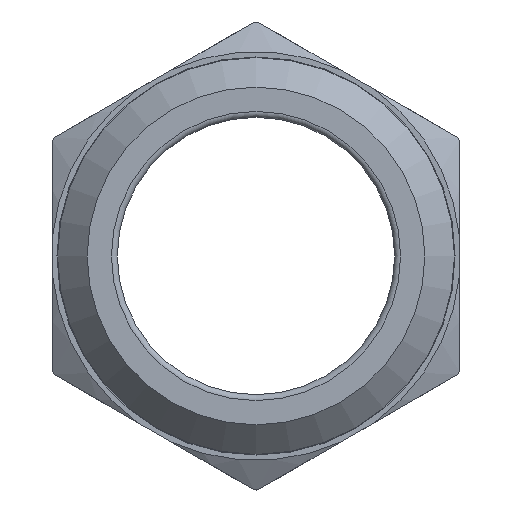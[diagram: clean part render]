
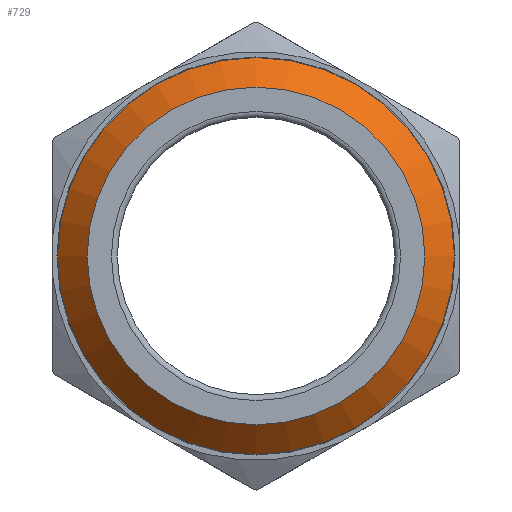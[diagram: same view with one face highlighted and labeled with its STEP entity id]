
A CAD part, front view. The second image highlights one B-rep face of the part: STEP entity #729.
In plain terms, the highlighted conical face has half-angle 45 degrees and reference radius 7.874 mm.
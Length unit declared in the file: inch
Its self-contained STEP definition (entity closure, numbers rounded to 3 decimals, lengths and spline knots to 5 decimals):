
#92=FACE_OUTER_BOUND('',#139,.T.);
#139=EDGE_LOOP('',(#559,#560,#561,#562,#563));
#176=LINE('',#1208,#207);
#207=VECTOR('',#986,0.31);
#259=CIRCLE('',#815,0.285);
#262=CIRCLE('',#820,0.335);
#263=CIRCLE('',#821,0.335);
#319=VERTEX_POINT('',#1198);
#322=VERTEX_POINT('',#1207);
#323=VERTEX_POINT('',#1209);
#406=EDGE_CURVE('',#319,#319,#259,.T.);
#410=EDGE_CURVE('',#319,#322,#176,.T.);
#411=EDGE_CURVE('',#322,#323,#262,.T.);
#412=EDGE_CURVE('',#323,#322,#263,.T.);
#559=ORIENTED_EDGE('',*,*,#406,.T.);
#560=ORIENTED_EDGE('',*,*,#410,.T.);
#561=ORIENTED_EDGE('',*,*,#411,.T.);
#562=ORIENTED_EDGE('',*,*,#412,.T.);
#563=ORIENTED_EDGE('',*,*,#410,.F.);
#705=CONICAL_SURFACE('',#819,0.31,0.785);
#729=ADVANCED_FACE('',(#92),#705,.T.);
#815=AXIS2_PLACEMENT_3D('',#1199,#975,#976);
#819=AXIS2_PLACEMENT_3D('',#1206,#984,#985);
#820=AXIS2_PLACEMENT_3D('',#1210,#987,#988);
#821=AXIS2_PLACEMENT_3D('',#1211,#989,#990);
#975=DIRECTION('center_axis',(0.,1.,0.));
#976=DIRECTION('ref_axis',(0.,0.,1.));
#984=DIRECTION('center_axis',(0.,1.,0.));
#985=DIRECTION('ref_axis',(0.,0.,1.));
#986=DIRECTION('',(0.,0.707,-0.707));
#987=DIRECTION('center_axis',(0.,-1.,0.));
#988=DIRECTION('ref_axis',(0.,0.,1.));
#989=DIRECTION('center_axis',(0.,-1.,0.));
#990=DIRECTION('ref_axis',(0.,0.,1.));
#1198=CARTESIAN_POINT('',(0.,-0.79,-0.285));
#1199=CARTESIAN_POINT('Origin',(0.,-0.79,0.));
#1206=CARTESIAN_POINT('Origin',(0.,-0.765,0.));
#1207=CARTESIAN_POINT('',(0.,-0.74,-0.335));
#1208=CARTESIAN_POINT('',(0.,-0.765,-0.31));
#1209=CARTESIAN_POINT('',(0.,-0.74,0.335));
#1210=CARTESIAN_POINT('Origin',(0.,-0.74,0.));
#1211=CARTESIAN_POINT('Origin',(0.,-0.74,0.));
